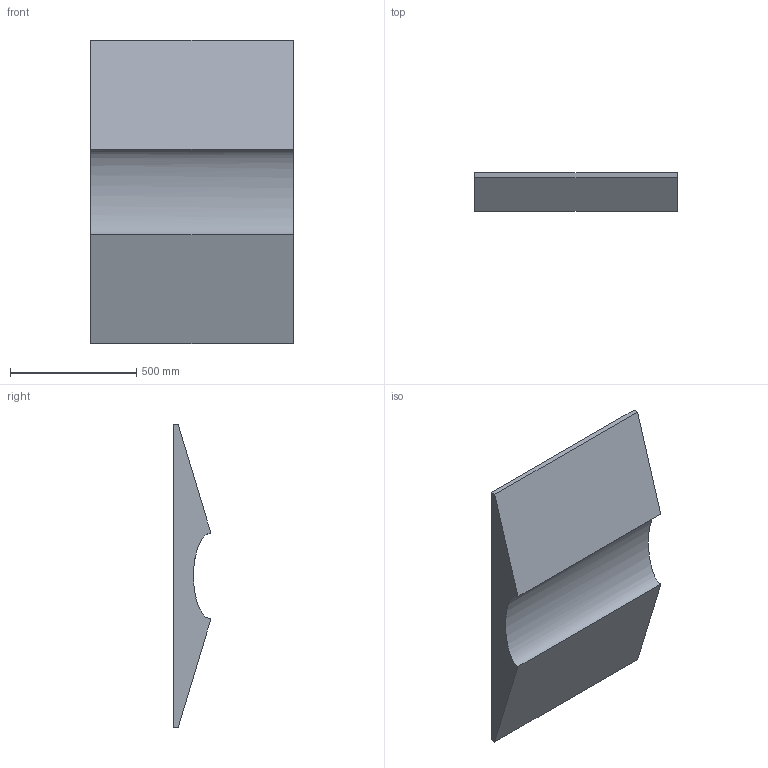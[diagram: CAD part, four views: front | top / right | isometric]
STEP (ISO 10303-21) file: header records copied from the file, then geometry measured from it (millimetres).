
FILE_DESCRIPTION(/* description */ (''),/* implementation_level */ '2;1');
FILE_NAME(/* name */ 'Sculpt Art - Wave, Big',/* time_stamp */ '2022-02-16T14:27:17+01:00',/* author */ (''),/* organization */ (''),/* preprocessor_version */ 'ST-DEVELOPER v15',/* originating_system */ '',/* authorisation */ '');
FILE_SCHEMA (('AUTOMOTIVE_DESIGN'));
Length unit declared in the file: millimetre
Products named in the file (1): Document
Bounding box: 800 x 150 x 1200 mm (x, y, z)
Volume: 84423238.9 mm3; surface area: 2236378.6 mm2
Topology: 1 solids, 1 shells, 8 faces, 18 edges, 12 vertices
Faces by surface type: plane 5, bspline 3
Entity records: 234 total; most frequent: CARTESIAN_POINT 87, ORIENTED_EDGE 36, EDGE_CURVE 18, B_SPLINE_CURVE_WITH_KNOTS 15, VERTEX_POINT 12, DIRECTION 9, ADVANCED_FACE 8, FACE_OUTER_BOUND 8
